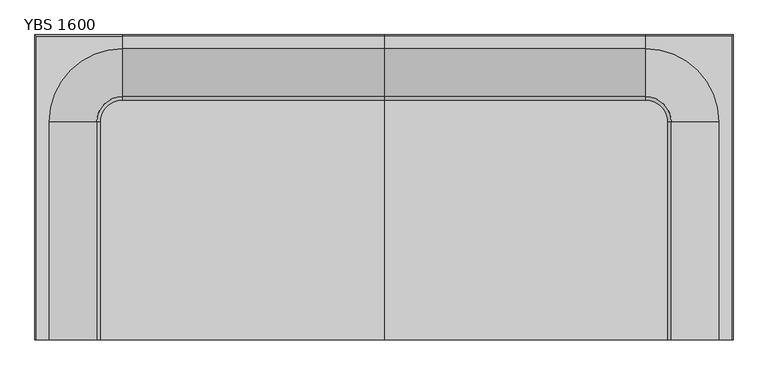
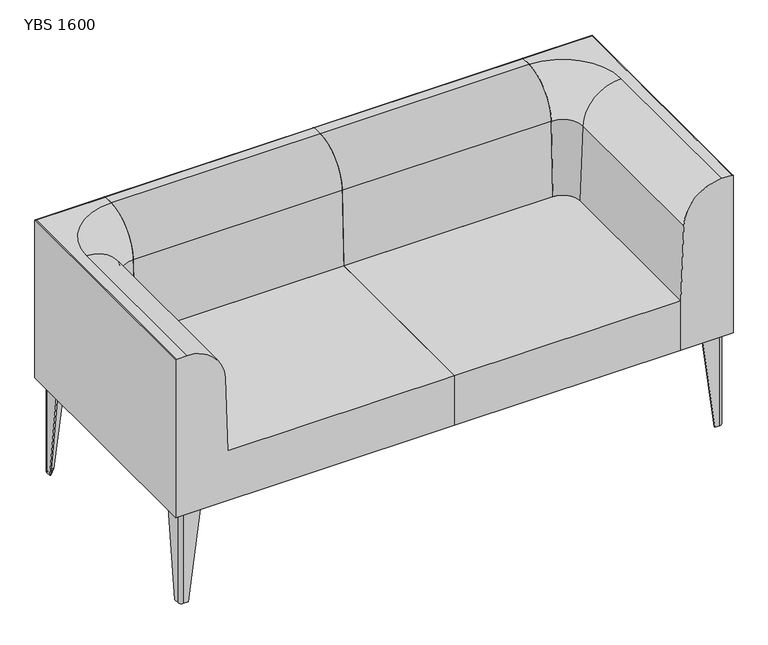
"""IFC4 building model written with IfcOpenShell, lengths in millimetres: furniture geometry, Mobiliário_Mobiliário de Escritório_LinhaYoung_Sofa Braço (Aço) - YB_Marelli : YBS 1600."""

from ifc_helpers import new_model, si_unit, point, frame, frame_2d, origin, origin_with_axes, place, context, project, spatial, polyline, circle_curve, ellipse_curve, trimmed, segment, composite_curve, outline, extrude, source, transform, mapped, element, save
from ifc_brep_helpers import plane_surface, cylinder_surface, revolved_surface, advanced_brep


def ybs_1600_b81034bc(model_context):
    return source(origin(), model_context, "Body", "SolidModel", [
        advanced_brep(
        [(20.0, 75.0, 280.0), (20.0, 25.0, 280.0), (30.0, 15.0, 280.0), (80.0, 15.0, 280.0), (80.0, 18.0, 280.0), (30.0, 18.0, 280.0), (23.0, 25.0, 280.0), (23.0, 75.0, 280.0), (20.0, 39.0, 0.0), (23.0, 39.0, 0.0), (23.0, 25.0, 0.0), (30.0, 18.0, 0.0), (44.0, 18.0, 0.0), (44.0, 15.0, 0.0), (30.0, 15.0, 0.0), (20.0, 25.0, 0.0)],
        [
            (0, 1),
            (1, 2, circle_curve(frame((30.0, 25.0, 280.0), z_axis=(0.0, 0.0, 1.0), x_axis=(0.0, -1.0, 0.0)), 10.0)),
            (2, 3),
            (3, 4),
            (4, 5),
            (5, 6, circle_curve(frame((30.0, 25.0, 280.0), z_axis=(0.0, 0.0, -1.0), x_axis=(-1.0, 0.0, 0.0)), 7.0)),
            (6, 7),
            (7, 0),
            (8, 9),
            (9, 10),
            (10, 11, circle_curve(frame((30.0, 25.0, 0.0), z_axis=(0.0, 0.0, 1.0), x_axis=(-1.0, 0.0, 0.0)), 7.0)),
            (11, 12),
            (12, 13),
            (13, 14),
            (14, 15, circle_curve(frame((30.0, 25.0, 0.0), z_axis=(0.0, 0.0, -1.0), x_axis=(0.0, -1.0, 0.0)), 10.0)),
            (15, 8),
            (15, 1),
            (0, 8),
            (14, 2),
            (13, 3),
            (12, 4),
            (11, 5),
            (10, 6),
            (9, 7),
        ],
        [
            plane_surface(frame((38.25, 33.25, 280.0), z_axis=(0.0, 0.0, 1.0), x_axis=(0.0, -1.0, 0.0))),
            plane_surface(frame((29.25, 24.25, 0.0), z_axis=(0.0, 0.0, -1.0), x_axis=(0.0, -1.0, 0.0))),
            plane_surface(frame((20.0, 32.0, 0.0), z_axis=(-1.0, 0.0, 0.0), x_axis=(0.0, -1.0, 0.0))),
            cylinder_surface(frame((30.0, 25.0, 0.0), z_axis=(0.0, 0.0, 1.0), x_axis=(0.0, -1.0, 0.0)), 10.0),
            plane_surface(frame((37.0, 15.0, 0.0), z_axis=(0.0, -1.0, 0.0), x_axis=(1.0, 0.0, 0.0))),
            plane_surface(frame((44.0, 16.5, 0.0), z_axis=(0.9918357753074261, 0.0, -0.12752174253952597), x_axis=(0.0, 1.0, 0.0))),
            plane_surface(frame((37.0, 18.0, 0.0), z_axis=(0.0, 1.0, 0.0), x_axis=(-1.0, 0.0, 0.0))),
            revolved_surface(polyline([(23.0, 25.0, 280.0), (23.0, 25.0, 0.0)]), (30.0, 25.0, 0.0), (0.0, 0.0, 1.0)),
            plane_surface(frame((23.0, 32.0, 0.0), z_axis=(1.0, 0.0, 0.0), x_axis=(0.0, 1.0, 0.0))),
            plane_surface(frame((21.5, 39.0, 0.0), z_axis=(0.0, 0.9918357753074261, -0.12752174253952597), x_axis=(-1.0, 0.0, 0.0))),
        ],
        [
            (0, [[1, 2, 3, 4, 5, 6, 7, 8]]),
            (1, [[9, 10, 11, 12, 13, 14, 15, 16]]),
            (2, [[-16, 17, -1, 18]]),
            (3, [[-15, 19, -2, -17]]),
            (4, [[-14, 20, -3, -19]]),
            (5, [[-13, 21, -4, -20]]),
            (6, [[-12, 22, -5, -21]]),
            (7, [[-11, 23, -6, -22]]),
            (8, [[-10, 24, -7, -23]]),
            (9, [[-9, -18, -8, -24]]),
        ],
    ),
        advanced_brep(
        [(1580.0, 75.0, 280.0), (1577.0, 75.0, 280.0), (1577.0, 25.0, 280.0), (1570.0, 18.0, 280.0), (1520.0, 18.0, 280.0), (1520.0, 15.0, 280.0), (1570.0, 15.0, 280.0), (1580.0, 25.0, 280.0), (1580.0, 39.0, 0.0), (1580.0, 25.0, 0.0), (1570.0, 15.0, 0.0), (1556.0, 15.0, 0.0), (1556.0, 18.0, 0.0), (1570.0, 18.0, 0.0), (1577.0, 25.0, 0.0), (1577.0, 39.0, 0.0)],
        [
            (0, 1),
            (1, 2),
            (2, 3, circle_curve(frame((1570.0, 25.0, 280.0), z_axis=(0.0, 0.0, -1.0), x_axis=(0.0, -1.0, 0.0)), 7.0)),
            (3, 4),
            (4, 5),
            (5, 6),
            (6, 7, circle_curve(frame((1570.0, 25.0, 280.0), z_axis=(0.0, 0.0, 1.0), x_axis=(1.0, 0.0, 0.0)), 10.0)),
            (7, 0),
            (8, 9),
            (9, 10, circle_curve(frame((1570.0, 25.0, 0.0), z_axis=(0.0, 0.0, -1.0), x_axis=(1.0, 0.0, 0.0)), 10.0)),
            (10, 11),
            (11, 12),
            (12, 13),
            (13, 14, circle_curve(frame((1570.0, 25.0, 0.0), z_axis=(0.0, 0.0, 1.0), x_axis=(0.0, -1.0, 0.0)), 7.0)),
            (14, 15),
            (15, 8),
            (8, 0),
            (7, 9),
            (6, 10),
            (5, 11),
            (4, 12),
            (3, 13),
            (2, 14),
            (1, 15),
        ],
        [
            plane_surface(frame((1561.75, 33.25, 280.0), z_axis=(0.0, 0.0, 1.0), x_axis=(-1.0, 0.0, 0.0))),
            plane_surface(frame((1570.75, 24.25, 0.0), z_axis=(0.0, 0.0, -1.0), x_axis=(-1.0, 0.0, 0.0))),
            plane_surface(frame((1580.0, 32.0, 0.0), z_axis=(1.0, 0.0, 0.0), x_axis=(0.0, 1.0, 0.0))),
            cylinder_surface(frame((1570.0, 25.0, 0.0), z_axis=(0.0, 0.0, 1.0), x_axis=(1.0, 0.0, 0.0)), 10.0),
            plane_surface(frame((1563.0, 15.0, 0.0), z_axis=(0.0, -1.0, 0.0), x_axis=(1.0, 0.0, 0.0))),
            plane_surface(frame((1556.0, 16.5, 0.0), z_axis=(-0.9918357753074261, 0.0, -0.127521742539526), x_axis=(0.0, -1.0, 0.0))),
            plane_surface(frame((1563.0, 18.0, 0.0), z_axis=(0.0, 1.0, 0.0), x_axis=(-1.0, 0.0, 0.0))),
            revolved_surface(polyline([(1570.0, 18.0, 280.0), (1570.0, 18.0, 0.0)]), (1570.0, 25.0, 0.0), (0.0, 0.0, 1.0)),
            plane_surface(frame((1577.0, 32.0, 0.0), z_axis=(-1.0, 0.0, 0.0), x_axis=(0.0, -1.0, 0.0))),
            plane_surface(frame((1578.5, 39.0, 0.0), z_axis=(0.0, 0.9918357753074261, -0.12752174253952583), x_axis=(-1.0, 0.0, 0.0))),
        ],
        [
            (0, [[1, 2, 3, 4, 5, 6, 7, 8]]),
            (1, [[9, 10, 11, 12, 13, 14, 15, 16]]),
            (2, [[-9, 17, -8, 18]]),
            (3, [[-10, -18, -7, 19]]),
            (4, [[-11, -19, -6, 20]]),
            (5, [[-12, -20, -5, 21]]),
            (6, [[-13, -21, -4, 22]]),
            (7, [[-14, -22, -3, 23]]),
            (8, [[-15, -23, -2, 24]]),
            (9, [[-16, -24, -1, -17]]),
        ],
    ),
        advanced_brep(
        [(20.0, 625.0, 280.0), (23.0, 625.0, 280.0), (23.0, 675.0, 280.0), (30.0, 682.0, 280.0), (80.0, 682.0, 280.0), (80.0, 685.0, 280.0), (30.0, 685.0, 280.0), (20.0, 675.0, 280.0), (20.0, 661.0, 0.0), (20.0, 675.0, 0.0), (30.0, 685.0, 0.0), (44.0, 685.0, 0.0), (44.0, 682.0, 0.0), (30.0, 682.0, 0.0), (23.0, 675.0, 0.0), (23.0, 661.0, 0.0)],
        [
            (0, 1),
            (1, 2),
            (2, 3, circle_curve(frame((30.0, 675.0, 280.0), z_axis=(0.0, 0.0, -1.0), x_axis=(0.0, 1.0, 0.0)), 7.0)),
            (3, 4),
            (4, 5),
            (5, 6),
            (6, 7, circle_curve(frame((30.0, 675.0, 280.0), z_axis=(0.0, 0.0, 1.0), x_axis=(-1.0, 0.0, 0.0)), 10.0)),
            (7, 0),
            (8, 9),
            (9, 10, circle_curve(frame((30.0, 675.0, 0.0), z_axis=(0.0, 0.0, -1.0), x_axis=(-1.0, 0.0, 0.0)), 10.0)),
            (10, 11),
            (11, 12),
            (12, 13),
            (13, 14, circle_curve(frame((30.0, 675.0, 0.0), z_axis=(0.0, 0.0, 1.0), x_axis=(0.0, 1.0, 0.0)), 7.0)),
            (14, 15),
            (15, 8),
            (8, 0),
            (7, 9),
            (6, 10),
            (5, 11),
            (4, 12),
            (3, 13),
            (2, 14),
            (1, 15),
        ],
        [
            plane_surface(frame((38.25, 666.75, 280.0), z_axis=(0.0, 0.0, 1.0), x_axis=(1.0, 0.0, 0.0))),
            plane_surface(frame((29.25, 675.75, 0.0), z_axis=(0.0, 0.0, -1.0), x_axis=(1.0, 0.0, 0.0))),
            plane_surface(frame((20.0, 668.0, 0.0), z_axis=(-1.0, 0.0, 0.0), x_axis=(0.0, -1.0, 0.0))),
            cylinder_surface(frame((30.0, 675.0, 0.0), z_axis=(0.0, 0.0, 1.0), x_axis=(-1.0, 0.0, 0.0)), 10.0),
            plane_surface(frame((37.0, 685.0, 0.0), z_axis=(0.0, 1.0, 0.0), x_axis=(-1.0, 0.0, 0.0))),
            plane_surface(frame((44.0, 683.5, 0.0), z_axis=(0.9918357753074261, 0.0, -0.12752174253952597), x_axis=(0.0, 1.0, 0.0))),
            plane_surface(frame((37.0, 682.0, 0.0), z_axis=(0.0, -1.0, 0.0), x_axis=(1.0, 0.0, 0.0))),
            revolved_surface(polyline([(30.0, 682.0, 280.0), (30.0, 682.0, 0.0)]), (30.0, 675.0, 0.0), (0.0, 0.0, 1.0)),
            plane_surface(frame((23.0, 668.0, 0.0), z_axis=(1.0, 0.0, 0.0), x_axis=(0.0, 1.0, 0.0))),
            plane_surface(frame((21.5, 661.0, 0.0), z_axis=(0.0, -0.9918357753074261, -0.127521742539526), x_axis=(1.0, 0.0, 0.0))),
        ],
        [
            (0, [[1, 2, 3, 4, 5, 6, 7, 8]]),
            (1, [[9, 10, 11, 12, 13, 14, 15, 16]]),
            (2, [[-9, 17, -8, 18]]),
            (3, [[-10, -18, -7, 19]]),
            (4, [[-11, -19, -6, 20]]),
            (5, [[-12, -20, -5, 21]]),
            (6, [[-13, -21, -4, 22]]),
            (7, [[-14, -22, -3, 23]]),
            (8, [[-15, -23, -2, 24]]),
            (9, [[-16, -24, -1, -17]]),
        ],
    ),
        advanced_brep(
        [(1580.0, 625.0, 280.0), (1580.0, 675.0, 280.0), (1570.0, 685.0, 280.0), (1520.0, 685.0, 280.0), (1520.0, 682.0, 280.0), (1570.0, 682.0, 280.0), (1577.0, 675.0, 280.0), (1577.0, 625.0, 280.0), (1580.0, 661.0, 0.0), (1577.0, 661.0, 0.0), (1577.0, 675.0, 0.0), (1570.0, 682.0, 0.0), (1556.0, 682.0, 0.0), (1556.0, 685.0, 0.0), (1570.0, 685.0, 0.0), (1580.0, 675.0, 0.0)],
        [
            (0, 1),
            (1, 2, circle_curve(frame((1570.0, 675.0, 280.0), z_axis=(0.0, 0.0, 1.0), x_axis=(0.0, 1.0, 0.0)), 10.0)),
            (2, 3),
            (3, 4),
            (4, 5),
            (5, 6, circle_curve(frame((1570.0, 675.0, 280.0), z_axis=(0.0, 0.0, -1.0), x_axis=(1.0, 0.0, 0.0)), 7.0)),
            (6, 7),
            (7, 0),
            (8, 9),
            (9, 10),
            (10, 11, circle_curve(frame((1570.0, 675.0, 0.0), z_axis=(0.0, 0.0, 1.0), x_axis=(1.0, 0.0, 0.0)), 7.0)),
            (11, 12),
            (12, 13),
            (13, 14),
            (14, 15, circle_curve(frame((1570.0, 675.0, 0.0), z_axis=(0.0, 0.0, -1.0), x_axis=(0.0, 1.0, 0.0)), 10.0)),
            (15, 8),
            (15, 1),
            (0, 8),
            (14, 2),
            (13, 3),
            (12, 4),
            (11, 5),
            (10, 6),
            (9, 7),
        ],
        [
            plane_surface(frame((1561.75, 666.75, 280.0), z_axis=(0.0, 0.0, 1.0), x_axis=(0.0, 1.0, 0.0))),
            plane_surface(frame((1570.75, 675.75, 0.0), z_axis=(0.0, 0.0, -1.0), x_axis=(0.0, 1.0, 0.0))),
            plane_surface(frame((1580.0, 668.0, 0.0), z_axis=(1.0, 0.0, 0.0), x_axis=(0.0, 1.0, 0.0))),
            cylinder_surface(frame((1570.0, 675.0, 0.0), z_axis=(0.0, 0.0, 1.0), x_axis=(0.0, 1.0, 0.0)), 10.0),
            plane_surface(frame((1563.0, 685.0, 0.0), z_axis=(0.0, 1.0, 0.0), x_axis=(-1.0, 0.0, 0.0))),
            plane_surface(frame((1556.0, 683.5, 0.0), z_axis=(-0.9918357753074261, 0.0, -0.127521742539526), x_axis=(0.0, -1.0, 0.0))),
            plane_surface(frame((1563.0, 682.0, 0.0), z_axis=(0.0, -1.0, 0.0), x_axis=(1.0, 0.0, 0.0))),
            revolved_surface(polyline([(1577.0, 675.0, 280.0), (1577.0, 675.0, 0.0)]), (1570.0, 675.0, 0.0), (0.0, 0.0, 1.0)),
            plane_surface(frame((1577.0, 668.0, 0.0), z_axis=(-1.0, 0.0, 0.0), x_axis=(0.0, -1.0, 0.0))),
            plane_surface(frame((1578.5, 661.0, 0.0), z_axis=(0.0, -0.9918357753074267, -0.12752174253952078), x_axis=(1.0, 0.0, 0.0))),
        ],
        [
            (0, [[1, 2, 3, 4, 5, 6, 7, 8]]),
            (1, [[9, 10, 11, 12, 13, 14, 15, 16]]),
            (2, [[-16, 17, -1, 18]]),
            (3, [[-15, 19, -2, -17]]),
            (4, [[-14, 20, -3, -19]]),
            (5, [[-13, 21, -4, -20]]),
            (6, [[-12, 22, -5, -21]]),
            (7, [[-11, 23, -6, -22]]),
            (8, [[-10, 24, -7, -23]]),
            (9, [[-9, -18, -8, -24]]),
        ],
    ),
        extrude(outline(composite_curve([segment(polyline([(23.0, 39.0), (44.0, 18.0), (30.0, 18.0)]), True, "CONTINUOUS"), segment(trimmed(circle_curve(frame_2d((30.0, 25.0)), 7.0), [point((30.0, 18.0))], [point((23.0, 25.0))], False, "CARTESIAN"), True, "CONTINUOUS"), segment(polyline([(23.0, 25.0), (23.0, 39.0)]), True, "CONTINUOUS")], self_intersect=False)), origin_with_axes(), (0.0, 0.0, 1.0), 1.0),
        extrude(outline(composite_curve([segment(polyline([(23.0, 661.0), (23.0, 675.0)]), True, "CONTINUOUS"), segment(trimmed(circle_curve(frame_2d((30.0, 675.0)), 7.0), [point((23.0, 675.0))], [point((30.0, 682.0))], False, "CARTESIAN"), True, "CONTINUOUS"), segment(polyline([(30.0, 682.0), (44.0, 682.0), (23.0, 661.0)]), True, "CONTINUOUS")], self_intersect=False)), origin_with_axes(), (0.0, 0.0, 1.0), 1.0),
        extrude(outline(composite_curve([segment(polyline([(1577.0, 39.0), (1577.0, 25.0)]), True, "CONTINUOUS"), segment(trimmed(circle_curve(frame_2d((1570.0, 25.0)), 7.0), [point((1577.0, 25.0))], [point((1570.0, 18.0))], False, "CARTESIAN"), True, "CONTINUOUS"), segment(polyline([(1570.0, 18.0), (1556.0, 18.0), (1577.0, 39.0)]), True, "CONTINUOUS")], self_intersect=False)), origin_with_axes(), (0.0, 0.0, 1.0), 1.0),
        extrude(outline(composite_curve([segment(polyline([(1577.0, 661.0), (1556.0, 682.0), (1570.0, 682.0)]), True, "CONTINUOUS"), segment(trimmed(circle_curve(frame_2d((1570.0, 675.0)), 7.0), [point((1570.0, 682.0))], [point((1577.0, 675.0))], False, "CARTESIAN"), True, "CONTINUOUS"), segment(polyline([(1577.0, 675.0), (1577.0, 661.0)]), True, "CONTINUOUS")], self_intersect=False)), origin_with_axes(), (0.0, 0.0, 1.0), 1.0),
        extrude(outline(composite_curve([segment(trimmed(circle_curve(frame_2d((30.0, 25.0)), 7.0), [point((30.0, 18.0))], [point((23.0, 25.0))], False, "CARTESIAN"), True, "CONTINUOUS"), segment(polyline([(23.0, 25.0), (23.0, 93.0)]), True, "CONTINUOUS"), segment(trimmed(circle_curve(frame_2d((28.0, 93.0)), 5.0), [point((23.0, 93.0))], [point((28.0, 98.0))], False, "CARTESIAN"), True, "CONTINUOUS"), segment(polyline([(28.0, 98.0), (51.9545624, 98.0)]), True, "CONTINUOUS"), segment(trimmed(circle_curve(frame_2d((52.6241051, 89.931755)), 8.0959783), [point((51.9545624, 98.0))], [point((58.520382, 95.479618))], False, "CARTESIAN"), True, "CONTINUOUS"), segment(polyline([(58.520382, 95.479618), (100.479618, 53.520382)]), True, "CONTINUOUS"), segment(trimmed(circle_curve(frame_2d((94.931755, 47.6241051)), 8.0959783), [point((100.479618, 53.520382))], [point((103.0, 46.9545624))], False, "CARTESIAN"), True, "CONTINUOUS"), segment(polyline([(103.0, 46.9545624), (103.0, 23.0)]), True, "CONTINUOUS"), segment(trimmed(circle_curve(frame_2d((98.0, 23.0)), 5.0), [point((103.0, 23.0))], [point((98.0, 18.0))], False, "CARTESIAN"), True, "CONTINUOUS"), segment(polyline([(98.0, 18.0), (30.0, 18.0)]), True, "CONTINUOUS")], self_intersect=False)), frame((0.0, 0.0, 279.0), z_axis=(0.0, 0.0, 1.0), x_axis=(1.0, 0.0, 0.0)), (0.0, 0.0, 1.0), 1.0),
        extrude(outline(composite_curve([segment(polyline([(30.0, 682.0), (98.0, 682.0)]), True, "CONTINUOUS"), segment(trimmed(circle_curve(frame_2d((98.0, 677.0)), 5.0), [point((98.0, 682.0))], [point((103.0, 677.0))], False, "CARTESIAN"), True, "CONTINUOUS"), segment(polyline([(103.0, 677.0), (103.0, 653.0454376)]), True, "CONTINUOUS"), segment(trimmed(circle_curve(frame_2d((94.931755, 652.3758949)), 8.0959783), [point((103.0, 653.0454376))], [point((100.479618, 646.479618))], False, "CARTESIAN"), True, "CONTINUOUS"), segment(polyline([(100.479618, 646.479618), (58.520382, 604.520382)]), True, "CONTINUOUS"), segment(trimmed(circle_curve(frame_2d((52.6241051, 610.068245)), 8.0959783), [point((58.520382, 604.520382))], [point((51.9545624, 602.0))], False, "CARTESIAN"), True, "CONTINUOUS"), segment(polyline([(51.9545624, 602.0), (28.0, 602.0)]), True, "CONTINUOUS"), segment(trimmed(circle_curve(frame_2d((28.0, 607.0)), 5.0), [point((28.0, 602.0))], [point((23.0, 607.0))], False, "CARTESIAN"), True, "CONTINUOUS"), segment(polyline([(23.0, 607.0), (23.0, 675.0)]), True, "CONTINUOUS"), segment(trimmed(circle_curve(frame_2d((30.0, 675.0)), 7.0), [point((23.0, 675.0))], [point((30.0, 682.0))], False, "CARTESIAN"), True, "CONTINUOUS")], self_intersect=False)), frame((0.0, 0.0, 279.0), z_axis=(0.0, 0.0, 1.0), x_axis=(1.0, 0.0, 0.0)), (0.0, 0.0, 1.0), 1.0),
        extrude(outline(composite_curve([segment(trimmed(circle_curve(frame_2d((1570.0, 675.0)), 7.0), [point((1570.0, 682.0))], [point((1577.0, 675.0))], False, "CARTESIAN"), True, "CONTINUOUS"), segment(polyline([(1577.0, 675.0), (1577.0, 607.0)]), True, "CONTINUOUS"), segment(trimmed(circle_curve(frame_2d((1572.0, 607.0)), 5.0), [point((1577.0, 607.0))], [point((1572.0, 602.0))], False, "CARTESIAN"), True, "CONTINUOUS"), segment(polyline([(1572.0, 602.0), (1548.0454376, 602.0)]), True, "CONTINUOUS"), segment(trimmed(circle_curve(frame_2d((1547.3758949, 610.068245)), 8.0959783), [point((1548.0454376, 602.0))], [point((1541.479618, 604.520382))], False, "CARTESIAN"), True, "CONTINUOUS"), segment(polyline([(1541.479618, 604.520382), (1499.520382, 646.479618)]), True, "CONTINUOUS"), segment(trimmed(circle_curve(frame_2d((1505.068245, 652.3758949)), 8.0959783), [point((1499.520382, 646.479618))], [point((1497.0, 653.0454376))], False, "CARTESIAN"), True, "CONTINUOUS"), segment(polyline([(1497.0, 653.0454376), (1497.0, 677.0)]), True, "CONTINUOUS"), segment(trimmed(circle_curve(frame_2d((1502.0, 677.0)), 5.0), [point((1497.0, 677.0))], [point((1502.0, 682.0))], False, "CARTESIAN"), True, "CONTINUOUS"), segment(polyline([(1502.0, 682.0), (1570.0, 682.0)]), True, "CONTINUOUS")], self_intersect=False)), frame((0.0, 0.0, 279.0), z_axis=(0.0, 0.0, 1.0), x_axis=(1.0, 0.0, 0.0)), (0.0, 0.0, 1.0), 1.0),
        extrude(outline(composite_curve([segment(polyline([(1570.0, 18.0), (1502.0, 18.0)]), True, "CONTINUOUS"), segment(trimmed(circle_curve(frame_2d((1502.0, 23.0)), 5.0), [point((1502.0, 18.0))], [point((1497.0, 23.0))], False, "CARTESIAN"), True, "CONTINUOUS"), segment(polyline([(1497.0, 23.0), (1497.0, 46.9545624)]), True, "CONTINUOUS"), segment(trimmed(circle_curve(frame_2d((1505.068245, 47.6241051)), 8.0959783), [point((1497.0, 46.9545624))], [point((1499.520382, 53.520382))], False, "CARTESIAN"), True, "CONTINUOUS"), segment(polyline([(1499.520382, 53.520382), (1541.479618, 95.479618)]), True, "CONTINUOUS"), segment(trimmed(circle_curve(frame_2d((1547.3758949, 89.931755)), 8.0959783), [point((1541.479618, 95.479618))], [point((1548.0454376, 98.0))], False, "CARTESIAN"), True, "CONTINUOUS"), segment(polyline([(1548.0454376, 98.0), (1572.0, 98.0)]), True, "CONTINUOUS"), segment(trimmed(circle_curve(frame_2d((1572.0, 93.0)), 5.0), [point((1572.0, 98.0))], [point((1577.0, 93.0))], False, "CARTESIAN"), True, "CONTINUOUS"), segment(polyline([(1577.0, 93.0), (1577.0, 25.0)]), True, "CONTINUOUS"), segment(trimmed(circle_curve(frame_2d((1570.0, 25.0)), 7.0), [point((1577.0, 25.0))], [point((1570.0, 18.0))], False, "CARTESIAN"), True, "CONTINUOUS")], self_intersect=False)), frame((0.0, 0.0, 279.0), z_axis=(0.0, 0.0, 1.0), x_axis=(1.0, 0.0, 0.0)), (0.0, 0.0, 1.0), 1.0),
        advanced_brep(
        [(1568.0, 0.0, 760.0), (1458.2568376, 0.0, 654.223651), (1450.0, 0.0, 430.0), (1450.0, 0.0, 280.0), (1600.0, 0.0, 280.0), (1600.0, 0.0, 756.9835797), (1596.9835797, 0.0, 760.0), (1400.0, 668.0, 760.0), (1568.0, 500.0, 760.0), (1596.9835797, 696.9835797, 760.0), (1400.0, 696.9835797, 760.0), (1458.2568376, 500.0, 654.223651), (1450.0, 500.0, 430.0), (1450.0, 500.0, 280.0), (1400.0, 550.0, 280.0), (1400.0, 700.0, 280.0), (1600.0, 700.0, 280.0), (1600.0, 700.0, 756.9835797), (1400.0, 558.2568376, 654.223651), (1400.0, 550.0, 430.0), (1400.0, 700.0, 756.9835797)],
        [
            (0, 1, circle_curve(frame((1568.0, 0.0, 650.1824561), z_axis=(0.0, -1.0, 0.0), x_axis=(-1.0, 0.0, 0.0)), 109.8175439)),
            (1, 2),
            (2, 3),
            (3, 4),
            (4, 5),
            (5, 6, circle_curve(frame((1596.9835797, 0.0, 756.9835797), z_axis=(0.0, -1.0, 0.0), x_axis=(-1.0, 0.0, 0.0)), 3.0164203)),
            (6, 0),
            (7, 8, circle_curve(frame((1400.0, 500.0, 760.0), z_axis=(0.0, 0.0, -1.0), x_axis=(1.0, 0.0, 0.0)), 168.0)),
            (8, 0),
            (6, 9),
            (9, 10),
            (10, 7),
            (8, 11, circle_curve(frame((1568.0, 500.0, 650.1824561), z_axis=(0.0, -1.0, 0.0), x_axis=(-1.0, 0.0, 0.0)), 109.8175439)),
            (11, 1),
            (11, 12),
            (12, 2),
            (12, 13),
            (13, 3),
            (13, 14, circle_curve(frame((1400.0, 500.0, 280.0), z_axis=(0.0, 0.0, 1.0), x_axis=(1.0, 0.0, 0.0)), 50.0)),
            (14, 15),
            (15, 16),
            (16, 4),
            (16, 17),
            (17, 5),
            (7, 18, circle_curve(frame((1400.0, 668.0, 650.1824561), z_axis=(1.0, 0.0, 0.0), x_axis=(0.0, -1.0, 0.0)), 109.8175439)),
            (18, 11, circle_curve(frame((1400.0, 500.0, 654.223651), z_axis=(0.0, 0.0, -1.0), x_axis=(1.0, 0.0, 0.0)), 58.2568376)),
            (18, 19),
            (19, 12, circle_curve(frame((1400.0, 500.0, 430.0), z_axis=(0.0, 0.0, -1.0), x_axis=(1.0, 0.0, 0.0)), 50.0)),
            (19, 14),
            (20, 10, circle_curve(frame((1400.0, 696.9835797, 756.9835797), z_axis=(1.0, 0.0, 0.0), x_axis=(0.0, 1.0, 0.0)), 3.0164203)),
            (9, 17, ellipse_curve(frame((1596.9835797, 696.9835797, 756.9835797), z_axis=(-0.7071067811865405, 0.7071067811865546, 0.0), x_axis=(0.7071067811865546, 0.7071067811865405, 0.0)), 4.2658626, 3.0164203)),
            (17, 20),
            (20, 15),
        ],
        [
            plane_surface(frame((1450.0, 0.0, 0.0), z_axis=(0.0, -1.0, 0.0), x_axis=(0.0, 0.0, 1.0))),
            plane_surface(frame((1600.0, 0.0, 760.0), z_axis=(0.0, 0.0, 1.0), x_axis=(0.0, 1.0, 0.0))),
            cylinder_surface(frame((1568.0, 0.0, 650.1824561), z_axis=(0.0, -1.0, 0.0), x_axis=(-1.0, 0.0, 0.0)), 109.8175439),
            plane_surface(frame((1458.2568376, 0.0, 654.223651), z_axis=(-0.9993226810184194, 0.0, 0.03679917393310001), x_axis=(0.0, 1.0, 0.0))),
            plane_surface(frame((1450.0, 0.0, 430.0), z_axis=(-1.0, 0.0, 0.0), x_axis=(0.0, 1.0, 0.0))),
            plane_surface(frame((1450.0, 0.0, 280.0), z_axis=(0.0, 0.0, -1.0), x_axis=(0.0, 1.0, 0.0))),
            plane_surface(frame((1600.0, 0.0, 280.0), z_axis=(1.0, 0.0, 0.0), x_axis=(0.0, 1.0, 0.0))),
            revolved_surface(trimmed(ellipse_curve(frame((1568.0, 500.0, 650.1824561), z_axis=(0.0, -1.0, 0.0), x_axis=(-1.0, 0.0, 0.0)), 109.8175439, 109.8175439), [point((1568.0, 500.0, 760.0))], [point((1458.2568376, 500.0, 654.223651))], True, "CARTESIAN"), (1400.0, 500.0, 0.0), (0.0, 0.0, 1.0)),
            revolved_surface(polyline([(1458.2568376, 500.0, 654.223651), (1450.0, 500.0, 430.0)]), (1400.0, 500.0, 0.0), (0.0, 0.0, 1.0)),
            revolved_surface(polyline([(1450.0, 500.0, 430.0), (1450.0, 500.0, 280.0)]), (1400.0, 500.0, 0.0), (0.0, 0.0, 1.0)),
            cylinder_surface(frame((1600.0, 696.9835797, 756.9835797), z_axis=(1.0, 0.0, 0.0), x_axis=(0.0, 1.0, 0.0)), 3.0164203),
            plane_surface(frame((1400.0, 550.0, 0.0), z_axis=(-1.0, 0.0, 0.0), x_axis=(0.0, 0.0, 1.0))),
            plane_surface(frame((1600.0, 700.0, 760.0), z_axis=(0.0, 1.0, 0.0), x_axis=(0.0, 0.0, -1.0))),
            cylinder_surface(frame((1596.9835797, 0.0, 756.9835797), z_axis=(0.0, 1.0, 0.0), x_axis=(-1.0, 0.0, 0.0)), 3.0164203),
        ],
        [
            (0, [[1, 2, 3, 4, 5, 6, 7]]),
            (1, [[8, 9, -7, 10, 11, 12]]),
            (2, [[-1, -9, 13, 14]]),
            (3, [[-2, -14, 15, 16]]),
            (4, [[-3, -16, 17, 18]]),
            (5, [[-4, -18, 19, 20, 21, 22]]),
            (6, [[-22, 23, 24, -5]]),
            (7, [[-8, 25, 26, -13]]),
            (8, [[-15, -26, 27, 28]]),
            (9, [[-17, -28, 29, -19]]),
            (10, [[30, -11, 31, 32]]),
            (11, [[-20, -29, -27, -25, -12, -30, 33]]),
            (12, [[-21, -33, -32, -23]]),
            (13, [[-6, -24, -31, -10]]),
        ],
    ),
        advanced_brep(
        [(200.0, 700.0, 756.9835797), (0.0, 700.0, 756.9835797), (3.0164203, 696.9835797, 760.0), (200.0, 696.9835797, 760.0), (800.0, 550.0, 430.0), (200.0, 550.0, 430.0), (150.0, 500.0, 430.0), (150.0, 0.0, 430.0), (800.0, 0.0, 430.0), (800.0, 550.0, 280.0), (200.0, 550.0, 280.0), (32.0, 0.0, 760.0), (32.0, 500.0, 760.0), (200.0, 668.0, 760.0), (3.0164203, 0.0, 760.0), (0.0, 700.0, 280.0), (200.0, 700.0, 280.0), (800.0, 0.0, 280.0), (0.0, 0.0, 280.0), (0.0, 0.0, 756.9835797), (141.7431624, 0.0, 654.223651), (141.7431624, 500.0, 654.223651), (200.0, 558.2568376, 654.223651)],
        [
            (0, 1),
            (1, 2, ellipse_curve(frame((3.0164203, 696.9835797, 756.9835797), z_axis=(0.7071067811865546, 0.7071067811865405, 0.0), x_axis=(0.7071067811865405, -0.7071067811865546, 0.0)), 4.2658626, 3.0164203)),
            (2, 3),
            (3, 0, circle_curve(frame((200.0, 696.9835797, 756.9835797), z_axis=(-1.0, 0.0, 0.0), x_axis=(0.0, 1.0, 0.0)), 3.0164203)),
            (4, 5),
            (5, 6, circle_curve(frame((200.0, 500.0, 430.0), z_axis=(0.0, 0.0, 1.0), x_axis=(-1.0, 0.0, 0.0)), 50.0)),
            (6, 7),
            (7, 8),
            (8, 4),
            (4, 9),
            (9, 10),
            (10, 5),
            (11, 12),
            (12, 13, circle_curve(frame((200.0, 500.0, 760.0), z_axis=(0.0, 0.0, -1.0), x_axis=(-1.0, 0.0, 0.0)), 168.0)),
            (13, 3),
            (2, 14),
            (14, 11),
            (15, 16),
            (16, 10),
            (9, 17),
            (17, 18),
            (18, 15),
            (15, 1),
            (0, 16),
            (18, 19),
            (19, 1),
            (19, 14, circle_curve(frame((3.0164203, 0.0, 756.9835797), z_axis=(0.0, 1.0, 0.0), x_axis=(-1.0, 0.0, 0.0)), 3.0164203)),
            (7, 20),
            (20, 11, circle_curve(frame((32.0, 0.0, 650.1824561), z_axis=(0.0, -1.0, 0.0), x_axis=(-1.0, 0.0, 0.0)), 109.8175439)),
            (17, 8),
            (20, 21),
            (21, 12, circle_curve(frame((32.0, 500.0, 650.1824561), z_axis=(0.0, -1.0, 0.0), x_axis=(-1.0, 0.0, 0.0)), 109.8175439)),
            (6, 21),
            (13, 22, circle_curve(frame((200.0, 668.0, 650.1824561), z_axis=(1.0, 0.0, 0.0), x_axis=(0.0, 1.0, 0.0)), 109.8175439)),
            (22, 5),
            (21, 22, circle_curve(frame((200.0, 500.0, 654.223651), z_axis=(0.0, 0.0, -1.0), x_axis=(-1.0, 0.0, 0.0)), 58.2568376)),
        ],
        [
            cylinder_surface(frame((1600.0, 696.9835797, 756.9835797), z_axis=(1.0, 0.0, 0.0), x_axis=(0.0, 1.0, 0.0)), 3.0164203),
            plane_surface(frame((200.0, 550.0, 430.0), z_axis=(0.0, 0.0, 1.0), x_axis=(-1.0, 0.0, 0.0))),
            plane_surface(frame((800.0, 550.0, 430.0), z_axis=(0.0, 1.0, 0.0), x_axis=(0.0, 0.0, -1.0))),
            plane_surface(frame((0.0, 500.0, 760.0), z_axis=(0.0, 0.0, 1.0), x_axis=(0.0, -1.0, 0.0))),
            plane_surface(frame((0.0, 500.0, 280.0), z_axis=(0.0, 0.0, -1.0), x_axis=(0.0, 1.0, 0.0))),
            plane_surface(frame((200.0, 700.0, 760.0), z_axis=(0.0, 1.0, 0.0), x_axis=(0.0, 0.0, -1.0))),
            plane_surface(frame((0.0, 700.0, 760.0), z_axis=(-1.0, 0.0, 0.0), x_axis=(0.0, 0.0, -1.0))),
            cylinder_surface(frame((3.0164203, 700.0, 756.9835797), z_axis=(0.0, 1.0, 0.0), x_axis=(-1.0, 0.0, 0.0)), 3.0164203),
            plane_surface(frame((150.0, 0.0, 0.0), z_axis=(0.0, -1.0, 0.0), x_axis=(0.0, 0.0, 1.0))),
            cylinder_surface(frame((32.0, 0.0, 650.1824561), z_axis=(0.0, -1.0, 0.0), x_axis=(-1.0, 0.0, 0.0)), 109.8175439),
            plane_surface(frame((150.0, 0.0, 430.0), z_axis=(0.9993226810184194, 0.0, 0.036799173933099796), x_axis=(0.0, 1.0, 0.0))),
            plane_surface(frame((200.0, 550.0, 0.0), z_axis=(1.0, 0.0, 0.0), x_axis=(0.0, 0.0, 1.0))),
            revolved_surface(trimmed(ellipse_curve(frame((32.0, 500.0, 650.1824561), z_axis=(0.0, -1.0, 0.0), x_axis=(-1.0, 0.0, 0.0)), 109.8175439, 109.8175439), [point((141.7431624, 500.0, 654.223651))], [point((32.0, 500.0, 760.0))], True, "CARTESIAN"), (200.0, 500.0, 0.0), (0.0, 0.0, -1.0)),
            revolved_surface(polyline([(150.0, 500.0, 430.0), (141.7431624, 500.0, 654.223651)]), (200.0, 500.0, 0.0), (0.0, 0.0, -1.0)),
            plane_surface(frame((800.0, 0.0, 430.0), z_axis=(1.0, 0.0, 0.0), x_axis=(0.0, 0.0, -1.0))),
        ],
        [
            (0, [[1, 2, 3, 4]]),
            (1, [[5, 6, 7, 8, 9]]),
            (2, [[-5, 10, 11, 12]]),
            (3, [[13, 14, 15, -3, 16, 17]]),
            (4, [[18, 19, -11, 20, 21, 22]]),
            (5, [[-18, 23, -1, 24]]),
            (6, [[-22, 25, 26, -23]]),
            (7, [[-16, -2, -26, 27]]),
            (8, [[28, 29, -17, -27, -25, -21, 30, -8]]),
            (9, [[-29, 31, 32, -13]]),
            (10, [[-28, -7, 33, -31]]),
            (11, [[-19, -24, -4, -15, 34, 35, -12]]),
            (12, [[-14, -32, 36, -34]]),
            (13, [[-33, -6, -35, -36]]),
            (14, [[-9, -30, -20, -10]]),
        ],
    ),
        extrude(outline(composite_curve([segment(polyline([(800.0, 550.0), (1400.0, 550.0)]), True, "CONTINUOUS"), segment(trimmed(circle_curve(frame_2d((1400.0, 500.0)), 50.0), [point((1400.0, 550.0))], [point((1450.0, 500.0))], False, "CARTESIAN"), True, "CONTINUOUS"), segment(polyline([(1450.0, 500.0), (1450.0, 0.0), (800.0, 0.0), (800.0, 550.0)]), True, "CONTINUOUS")], self_intersect=False)), frame((0.0, 0.0, 280.0), z_axis=(0.0, 0.0, 1.0), x_axis=(1.0, 0.0, 0.0)), (0.0, 0.0, 1.0), 150.0),
        extrude(outline(composite_curve([segment(polyline([(550.0, 430.0), (558.2568376, 654.223651)]), True, "CONTINUOUS"), segment(trimmed(circle_curve(frame_2d((668.0, 650.1824561)), 109.8175439), [point((558.2568376, 654.223651))], [point((668.0, 760.0))], False, "CARTESIAN"), True, "CONTINUOUS"), segment(polyline([(668.0, 760.0), (696.9835797, 760.0)]), True, "CONTINUOUS"), segment(trimmed(circle_curve(frame_2d((696.9835797, 756.9835797)), 3.0164203), [point((696.9835797, 760.0))], [point((700.0, 756.9835797))], False, "CARTESIAN"), True, "CONTINUOUS"), segment(polyline([(700.0, 756.9835797), (700.0, 280.0), (550.0, 280.0), (550.0, 430.0)]), True, "CONTINUOUS")], self_intersect=False)), frame((200.0, 0.0, 0.0), z_axis=(1.0, 0.0, 0.0), x_axis=(0.0, 1.0, 0.0)), (0.0, 0.0, 1.0), 600.0),
        extrude(outline(composite_curve([segment(polyline([(550.0, 430.0), (558.2568376, 654.223651)]), True, "CONTINUOUS"), segment(trimmed(circle_curve(frame_2d((668.0, 650.1824561)), 109.8175439), [point((558.2568376, 654.223651))], [point((668.0, 760.0))], False, "CARTESIAN"), True, "CONTINUOUS"), segment(polyline([(668.0, 760.0), (696.9835797, 760.0)]), True, "CONTINUOUS"), segment(trimmed(circle_curve(frame_2d((696.9835797, 756.9835797)), 3.0164203), [point((696.9835797, 760.0))], [point((700.0, 756.9835797))], False, "CARTESIAN"), True, "CONTINUOUS"), segment(polyline([(700.0, 756.9835797), (700.0, 280.0), (550.0, 280.0), (550.0, 430.0)]), True, "CONTINUOUS")], self_intersect=False)), frame((800.0, 0.0, 0.0), z_axis=(1.0, 0.0, 0.0), x_axis=(0.0, 1.0, 0.0)), (0.0, 0.0, 1.0), 600.0),
    ])


if __name__ == "__main__":
    model = new_model("IFC4")
    model_context = context("Model", 3, world=origin())
    ifc_project = project(units=[si_unit("LENGTHUNIT", "METRE", prefix="MILLI")], contexts=[model_context])
    site = spatial("IfcSite", under=ifc_project)
    building = spatial("IfcBuilding", under=site)
    placement = place(None, origin())
    ybs_1600_shape = ybs_1600_b81034bc(model_context)
    element("IfcFurniture", 1, ObjectType="Mobiliário_Mobiliário de Escritório_LinhaYoung_Sofa Braço (Aço) - YB_Marelli : YBS 1600", at=placement, inside=building, context=model_context, shape_type="MappedRepresentation", body=[
        mapped(ybs_1600_shape, transform((0.0, 0.0, 0.0), x_axis=(1.0, 0.0, 0.0), y_axis=(0.0, 1.0, 0.0), z_axis=(0.0, 0.0, 1.0))),
    ])
    save(model, "model.ifc")
